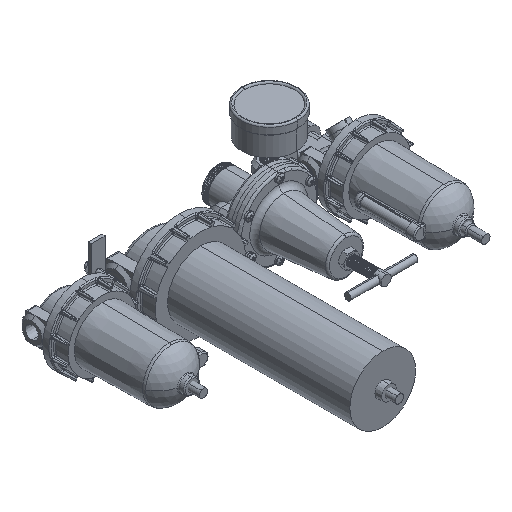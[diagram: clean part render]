
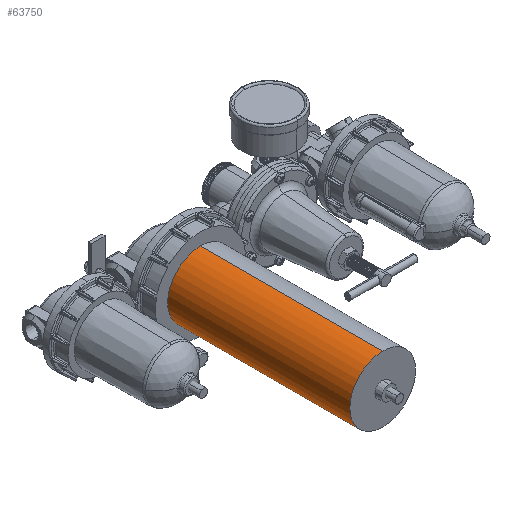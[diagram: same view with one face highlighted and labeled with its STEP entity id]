
A CAD part, isometric view. The second image highlights one B-rep face of the part: STEP entity #63750.
In plain terms, the highlighted cylindrical face has radius 31.5 mm (diameter 63 mm), a partial arc.
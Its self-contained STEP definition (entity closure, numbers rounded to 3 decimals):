
#2562 = CARTESIAN_POINT ( 'NONE',  ( 0., 0., -31.5 ) ) ;
#4695 = CARTESIAN_POINT ( 'NONE',  ( 0., 174.5, 31.5 ) ) ;
#5749 = AXIS2_PLACEMENT_3D ( 'NONE', #67671, #15397, #33686 ) ;
#5901 = AXIS2_PLACEMENT_3D ( 'NONE', #53266, #70800, #64965 ) ;
#6696 = FACE_OUTER_BOUND ( 'NONE', #22852, .T. ) ;
#7319 = ORIENTED_EDGE ( 'NONE', *, *, #15482, .T. ) ;
#7881 = CARTESIAN_POINT ( 'NONE',  ( 0., 174.5, 31.5 ) ) ;
#13044 = CYLINDRICAL_SURFACE ( 'NONE', #5749, 31.5 ) ;
#13449 = EDGE_CURVE ( 'NONE', #63757, #29326, #38404, .T. ) ;
#15397 = DIRECTION ( 'NONE',  ( 0., -1., 0. ) ) ;
#15482 = EDGE_CURVE ( 'NONE', #32181, #28452, #20954, .T. ) ;
#20703 = DIRECTION ( 'NONE',  ( 0., -1., 0. ) ) ;
#20954 = LINE ( 'NONE', #44326, #65459 ) ;
#22852 = EDGE_LOOP ( 'NONE', ( #74544, #58280, #7319, #48080 ) ) ;
#24305 = DIRECTION ( 'NONE',  ( 0., 0., 1. ) ) ;
#26540 = EDGE_CURVE ( 'NONE', #28452, #29326, #58283, .T. ) ;
#28019 = EDGE_CURVE ( 'NONE', #32181, #63757, #39194, .T. ) ;
#28452 = VERTEX_POINT ( 'NONE', #2562 ) ;
#29326 = VERTEX_POINT ( 'NONE', #58614 ) ;
#32181 = VERTEX_POINT ( 'NONE', #34896 ) ;
#33686 = DIRECTION ( 'NONE',  ( 0., 0., -1. ) ) ;
#34896 = CARTESIAN_POINT ( 'NONE',  ( 0., 174.5, -31.5 ) ) ;
#36778 = CARTESIAN_POINT ( 'NONE',  ( 0., 174.5, 0. ) ) ;
#37085 = DIRECTION ( 'NONE',  ( 0., -1., 0. ) ) ;
#38404 = LINE ( 'NONE', #7881, #64724 ) ;
#39194 = CIRCLE ( 'NONE', #44848, 31.5 ) ;
#41846 = DIRECTION ( 'NONE',  ( 0., 1., 0. ) ) ;
#44326 = CARTESIAN_POINT ( 'NONE',  ( 0., 174.5, -31.5 ) ) ;
#44848 = AXIS2_PLACEMENT_3D ( 'NONE', #36778, #41846, #24305 ) ;
#48080 = ORIENTED_EDGE ( 'NONE', *, *, #26540, .T. ) ;
#53266 = CARTESIAN_POINT ( 'NONE',  ( 0., 0., 0. ) ) ;
#58280 = ORIENTED_EDGE ( 'NONE', *, *, #28019, .F. ) ;
#58283 = CIRCLE ( 'NONE', #5901, 31.5 ) ;
#58614 = CARTESIAN_POINT ( 'NONE',  ( 0., 0., 31.5 ) ) ;
#63750 = ADVANCED_FACE ( 'NONE', ( #6696 ), #13044, .T. ) ;
#63757 = VERTEX_POINT ( 'NONE', #4695 ) ;
#64724 = VECTOR ( 'NONE', #37085, 1000. ) ;
#64965 = DIRECTION ( 'NONE',  ( 0., 0., 1. ) ) ;
#65459 = VECTOR ( 'NONE', #20703, 1000. ) ;
#67671 = CARTESIAN_POINT ( 'NONE',  ( 0., 174.5, 0. ) ) ;
#70800 = DIRECTION ( 'NONE',  ( 0., 1., 0. ) ) ;
#74544 = ORIENTED_EDGE ( 'NONE', *, *, #13449, .F. ) ;
